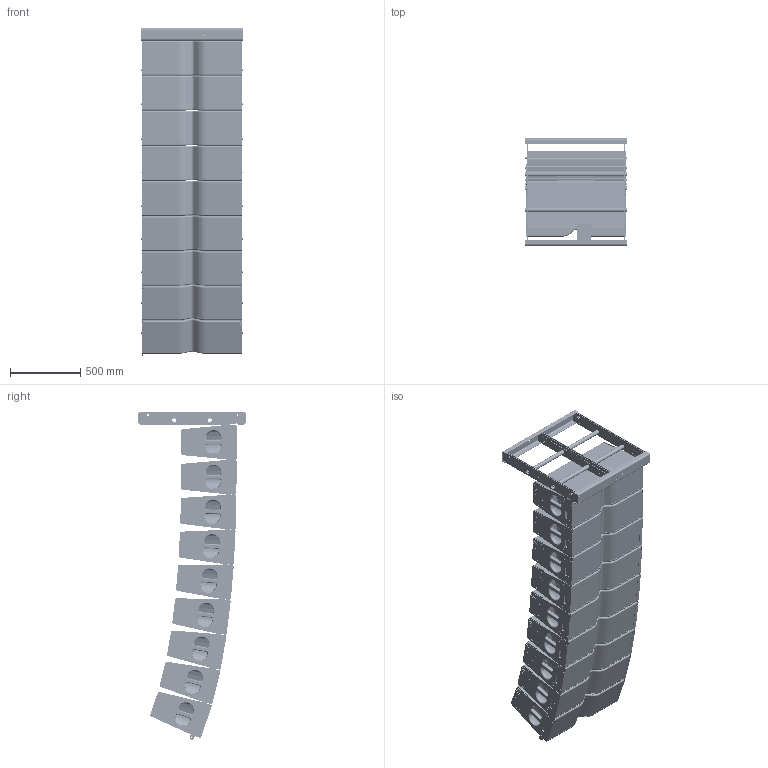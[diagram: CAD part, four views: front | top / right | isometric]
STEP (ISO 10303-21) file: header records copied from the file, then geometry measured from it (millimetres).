
FILE_DESCRIPTION(/* description */ (''),/* implementation_level */ '2;1');
FILE_NAME(/* name */ 'LA28 9 Box ARRAY v2.step',/* time_stamp */ '2023-01-21T23:50:29-08:00',/* author */ (''),/* organization */ (''),/* preprocessor_version */ 'ST-DEVELOPER v19.2',/* originating_system */ 'Autodesk Translation Framework v11.17.0.187',/* authorisation */ '');
FILE_SCHEMA (('AUTOMOTIVE_DESIGN { 1 0 10303 214 3 1 1 }'));
Length unit declared in the file: inch
Products named in the file (10): LA28 9 Box ARRAY; LA28 RF1 Sheet Metal Assembly; LA28RF1 Front Rear C Channel^la28RF1 SHEET METAL ASSEMBLY; LA28RF1 Center Bar^la28RF1 SHEET METAL ASSEMBLY; AL28RF1 Outer Bar^la28RF1 SHEET METAL ASSEMBLY; Inclinometer Mount Plate^la28RF1 SHEET METAL ASSEMBLY; Stabilizing Tube^la28RF1 SHEET METAL ASSEMBLY; Rear Connection Arm^la28RF1 SHEET METAL ASSEMBLY; LA18 LA28 Front Connection Tongue^la28RF1 SHEET METAL ASSEMBLY; LA28 TOUR BLOCK
Assembly tree (25 placements, depth 3):
  LA28 9 Box ARRAY
    LA28 RF1 Sheet Metal Assembly
      LA28RF1 Front Rear C Channel^la28RF1 SHEET METAL ASSEMBLY  x2
      LA28RF1 Center Bar^la28RF1 SHEET METAL ASSEMBLY  x2
      AL28RF1 Outer Bar^la28RF1 SHEET METAL ASSEMBLY  x4
      Inclinometer Mount Plate^la28RF1 SHEET METAL ASSEMBLY
      Stabilizing Tube^la28RF1 SHEET METAL ASSEMBLY  x2
      Rear Connection Arm^la28RF1 SHEET METAL ASSEMBLY  x2
      LA18 LA28 Front Connection Tongue^la28RF1 SHEET METAL ASSEMBLY  x2
    LA28 TOUR BLOCK  x9
Bounding box: 727.01 x 762 x 2328.7 mm (x, y, z)
Volume: 520602381.2 mm3; surface area: 12724759.4 mm2
Topology: 24 solids, 24 shells, 4385 faces, 10791 edges, 6946 vertices
Faces by surface type: plane 1967, cylinder 1878, torus 486, bspline 54
Full cylindrical faces by diameter (mm): 6.35 x4, 8.319 x54, 8.382 x528, 8.7 x18, 13 x126, 16.51 x52, 17 x108, 19.05 x2, 22.86 x2, 25.4 x8, 27.178 x2, 31.75 x2, 32.004 x12
Entity records: 22821 total; most frequent: CARTESIAN_POINT 4182, DIRECTION 3934, ORIENTED_EDGE 3624, EDGE_CURVE 1812, AXIS2_PLACEMENT_3D 1408, VERTEX_POINT 1168, LINE 1118, VECTOR 1118
